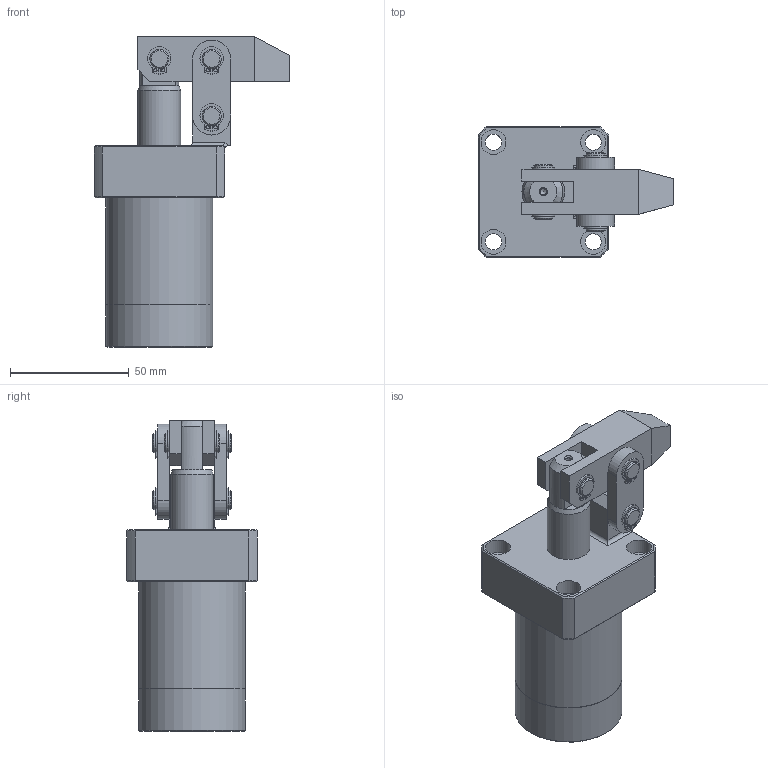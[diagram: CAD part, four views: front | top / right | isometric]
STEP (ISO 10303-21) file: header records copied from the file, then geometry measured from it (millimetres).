
FILE_DESCRIPTION(/* description */ ('Unknown'),/* implementation_level */ '2;1');
FILE_NAME(/* name */ 'HLC-FA25-A',/* time_stamp */ '2022-11-23T02:34:48+08:00',/* author */ ('Unknown'),/* organization */ ('Unknown'),/* preprocessor_version */ 'ST-DEVELOPER v16.7',/* originating_system */ 'DEX',/* authorisation */ $);
FILE_SCHEMA (('AUTOMOTIVE_DESIGN {1 0 10303 214 3 1 1}'));
Length unit declared in the file: millimetre
Products named in the file (8): HLC-FA25-A; HLC-FA25-CYLINDER; HLC-2502-AXLE CENTRE; HLC-25-A; HLC-25-墊; HLC-25-PINµu; HLC-25-PINªø·; HLC-25-C¦©‘
Assembly tree (14 placements, depth 2):
  HLC-FA25-A
    HLC-FA25-CYLINDER
    HLC-2502-AXLE CENTRE
    HLC-25-A
    HLC-25-墊  x2
    HLC-25-PINµu
    HLC-25-PINªø·  x2
    HLC-25-C¦©‘  x6
Bounding box: 82.5 x 55 x 131 mm (x, y, z)
Volume: 186587.4 mm3; surface area: 46779.9 mm2
Topology: 14 solids, 14 shells, 265 faces, 623 edges, 408 vertices
Faces by surface type: cylinder 121, plane 116, cone 26, torus 2
Full cylindrical faces by diameter (mm): 1.4 x12, 2.6 x1, 6.8 x4, 7.5 x6, 8 x18, 10.5 x4, 12.301 x2, 18 x2, 24.6 x1, 25 x1, 45 x2
Entity records: 5011 total; most frequent: CARTESIAN_POINT 776, DIRECTION 772, ORIENTED_EDGE 598, AXIS2_PLACEMENT_3D 320, EDGE_CURVE 299, FACE_BOUND 261, EDGE_LOOP 260, VERTEX_POINT 220
